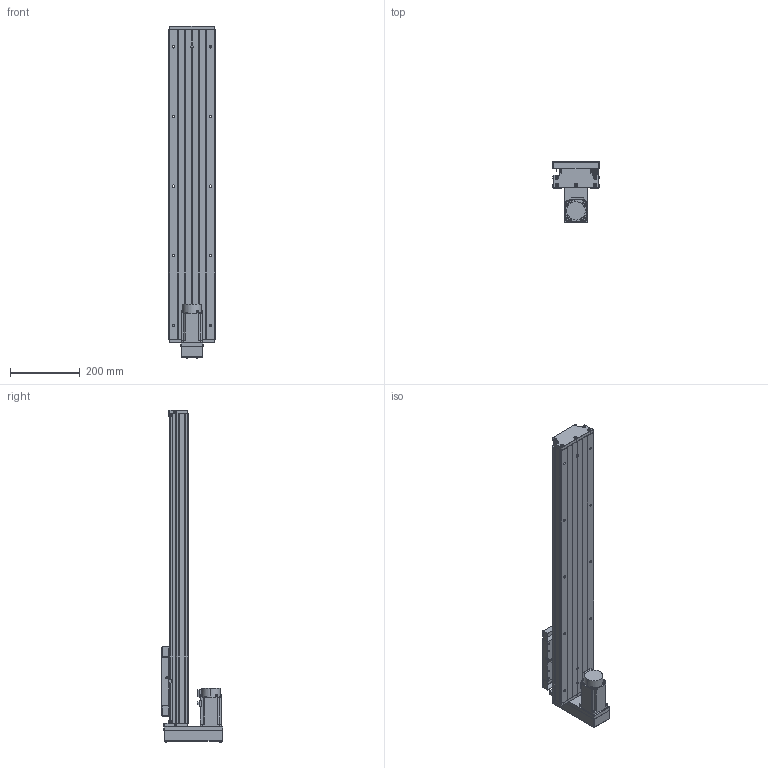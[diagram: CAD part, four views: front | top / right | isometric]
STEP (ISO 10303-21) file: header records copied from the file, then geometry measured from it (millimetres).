
FILE_DESCRIPTION (( 'STEP AP203' ), '1' );
FILE_NAME ('GTH14-650-BM-M40-C4.step', '2023-06-30T08:46:56', ( '微软用户' ), ( '微软中国' ), 'SwSTEP 2.0', 'SolidWorks 2020', '' );
FILE_SCHEMA (( 'CONFIG_CONTROL_DESIGN' ));
Length unit declared in the file: millimetre
Products named in the file (19): CTHA60-017; す晦芛蹟隊 M3℅5; EE_SX911P_R; HG-KN43J-S100; GTH14-002_GTH14-002; CTHA60-016; GBT 70.2-M4¡Á35_M4¡Á35; GTH14-004; GBT 70.1-M3℅5; GTH14-015-2_CTHA86-015-2; GTH14-005; GBT77-2000 M3×3; GTH14-033; GB1155-6X6; GTH14-031; GTH14-650-BM-M40-C4; GBT70.1 M5℅16; GBT 70.2-M3¡Á5_M3¡Á6; GTH14-001_650
Assembly tree (58 placements, depth 2):
  GTH14-650-BM-M40-C4
    GTH14-001_650
    GTH14-002_GTH14-002
    GTH14-004
    GTH14-005
    GB1155-6X6  x2
    GBT70.1 M5℅16  x10
    CTHA60-017  x3
    EE_SX911P_R  x3
    CTHA60-016  x2
    GBT 70.1-M3℅5  x6
    GBT77-2000 M3×3  x6
    GTH14-031
    GBT 70.2-M3¡Á5_M3¡Á6  x8
    す晦芛蹟隊 M3℅5  x6
    HG-KN43J-S100
    GBT 70.2-M4¡Á35_M4¡Á35  x4
    GTH14-015-2_CTHA86-015-2
    GTH14-033
Bounding box: 135 x 177.5 x 954.2 mm (x, y, z)
Volume: 5286360.3 mm3; surface area: 890121.8 mm2
Topology: 61 solids, 61 shells, 2453 faces, 5833 edges, 3594 vertices
Faces by surface type: plane 1307, cylinder 656, cone 314, torus 124, sphere 32, bspline 20
Entity records: 44158 total; most frequent: CARTESIAN_POINT 9857, DIRECTION 6489, ORIENTED_EDGE 6356, EDGE_CURVE 3178, AXIS2_PLACEMENT_3D 2218, LINE 2053, VECTOR 2053, VERTEX_POINT 2012
